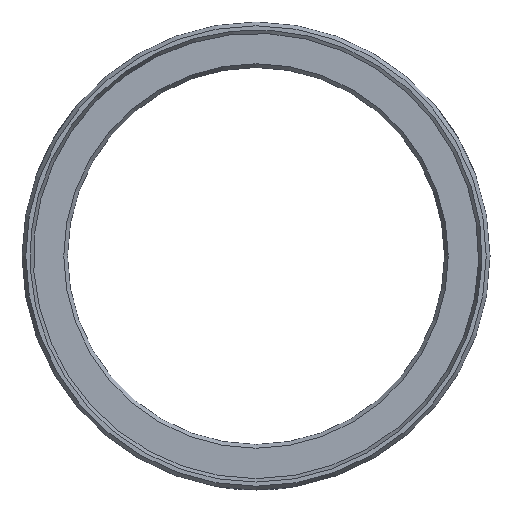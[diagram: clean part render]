
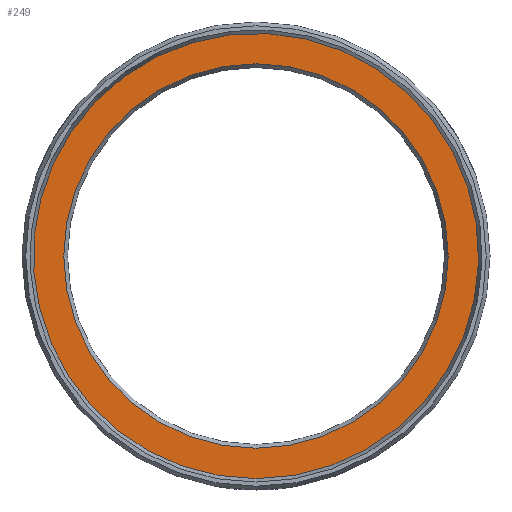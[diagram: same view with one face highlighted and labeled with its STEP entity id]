
A CAD part, left-side view. The second image highlights one B-rep face of the part: STEP entity #249.
In plain terms, the highlighted planar face has unit normal (-1, 0, 0).
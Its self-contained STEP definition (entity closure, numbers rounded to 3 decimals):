
#106=PLANE('',#985);
#249=ADVANCED_FACE('',(#309,#310),#106,.T.);
#309=FACE_BOUND('',#364,.T.);
#310=FACE_BOUND('',#365,.T.);
#364=EDGE_LOOP('',(#571));
#365=EDGE_LOOP('',(#572));
#571=ORIENTED_EDGE('',*,*,#816,.T.);
#572=ORIENTED_EDGE('',*,*,#815,.F.);
#701=VERTEX_POINT('',#1611);
#702=VERTEX_POINT('',#1614);
#815=EDGE_CURVE('',#701,#701,#881,.T.);
#816=EDGE_CURVE('',#702,#702,#882,.T.);
#881=CIRCLE('',#982,34.25);
#882=CIRCLE('',#984,29.577);
#982=AXIS2_PLACEMENT_3D('',#1610,#1195,#1196);
#984=AXIS2_PLACEMENT_3D('',#1613,#1199,#1200);
#985=AXIS2_PLACEMENT_3D('',#1615,#1201,#1202);
#1195=DIRECTION('',(1.,0.,0.));
#1196=DIRECTION('',(0.,0.,-1.));
#1199=DIRECTION('',(1.,0.,0.));
#1200=DIRECTION('',(0.,0.,1.));
#1201=DIRECTION('',(-1.,0.,0.));
#1202=DIRECTION('',(0.,0.,1.));
#1610=CARTESIAN_POINT('',(0.,0.,0.));
#1611=CARTESIAN_POINT('',(0.,0.,-34.25));
#1613=CARTESIAN_POINT('',(0.,0.,0.));
#1614=CARTESIAN_POINT('',(0.,0.,29.577));
#1615=CARTESIAN_POINT('',(0.,34.25,0.));
